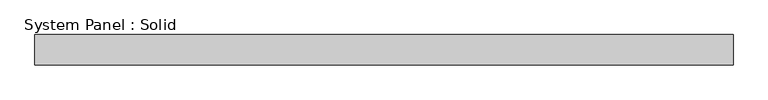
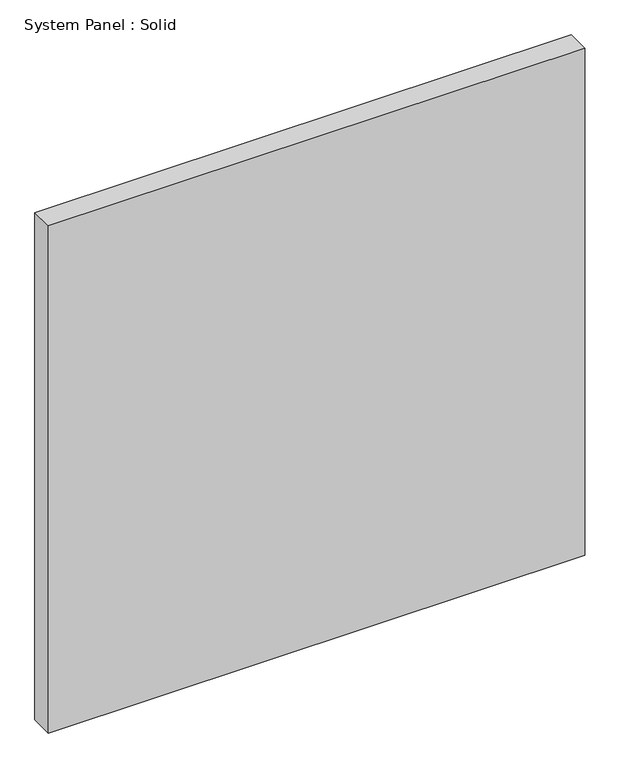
"""IFC4 building model written with IfcOpenShell, lengths in millimetres: plate geometry, System Panel : Solid."""

from ifc_helpers import new_model, si_unit, origin, origin_with_axes, place, context, project, spatial, polyline, outline, extrude, source, transform, mapped, element, save


def system_panel_solid_64e13288(model_context):
    return source(origin(), model_context, "Body", "SweptSolid", [
        extrude(outline(polyline([(733.4250002, -19.05), (-733.4250002, -19.05), (-733.4250002, 44.45), (733.4250002, 44.45), (733.4250002, -19.05)])), origin_with_axes(), (0.0, 0.0, 1.0), 1466.85),
    ])


if __name__ == "__main__":
    model = new_model("IFC4")
    model_context = context("Model", 3, world=origin())
    ifc_project = project(units=[si_unit("LENGTHUNIT", "METRE", prefix="MILLI")], contexts=[model_context])
    site = spatial("IfcSite", under=ifc_project)
    building = spatial("IfcBuilding", under=site)
    placement = place(None, origin())
    system_panel_solid_shape = system_panel_solid_64e13288(model_context)
    element("IfcPlate", 1, ObjectType="System Panel : Solid", at=placement, inside=building, context=model_context, shape_type="MappedRepresentation", body=[
        mapped(system_panel_solid_shape, transform((0.0, 0.0, 0.0), x_axis=(1.0, 0.0, 0.0), y_axis=(0.0, 1.0, 0.0), z_axis=(0.0, 0.0, 1.0))),
    ])
    save(model, "model.ifc")
